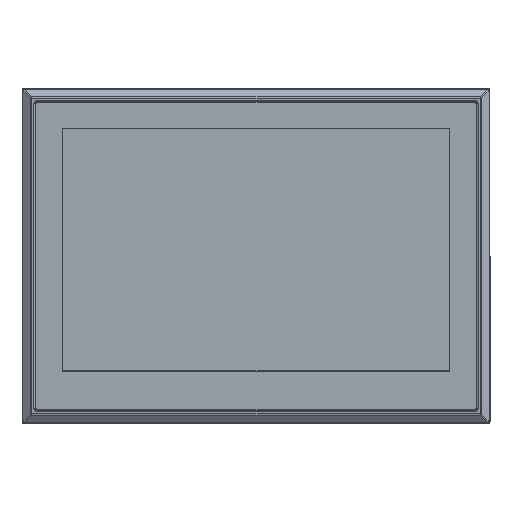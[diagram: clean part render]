
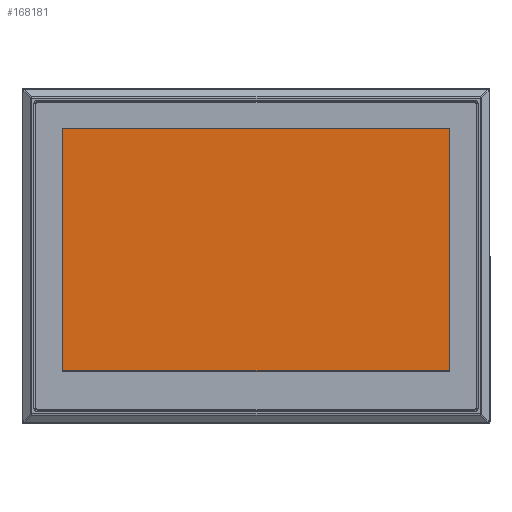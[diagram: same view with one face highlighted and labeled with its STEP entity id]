
A CAD part, top view. The second image highlights one B-rep face of the part: STEP entity #168181.
In plain terms, the highlighted planar face has unit normal (0, 0, 1).
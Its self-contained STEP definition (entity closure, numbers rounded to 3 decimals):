
#252 = VECTOR ( 'NONE', #104599, 1000. ) ;
#9140 = LINE ( 'NONE', #134623, #252 ) ;
#12244 = DIRECTION ( 'NONE',  ( 0., -1., 0. ) ) ;
#18298 = CARTESIAN_POINT ( 'NONE',  ( 122.48, -85.3, 1.1 ) ) ;
#18381 = VECTOR ( 'NONE', #12244, 1000. ) ;
#25375 = CARTESIAN_POINT ( 'NONE',  ( -108.48, 71.3, 1.1 ) ) ;
#29328 = CARTESIAN_POINT ( 'NONE',  ( -108.48, -64.3, 1.1 ) ) ;
#34214 = ORIENTED_EDGE ( 'NONE', *, *, #44054, .T. ) ;
#40735 = EDGE_CURVE ( 'NONE', #132975, #121600, #125954, .T. ) ;
#44054 = EDGE_CURVE ( 'NONE', #184923, #132975, #111466, .T. ) ;
#57312 = VERTEX_POINT ( 'NONE', #91098 ) ;
#62233 = DIRECTION ( 'NONE',  ( 0., 0., 1. ) ) ;
#65250 = EDGE_CURVE ( 'NONE', #121600, #57312, #129858, .T. ) ;
#77815 = VECTOR ( 'NONE', #183050, 1000. ) ;
#91098 = CARTESIAN_POINT ( 'NONE',  ( 108.48, 71.3, 1.1 ) ) ;
#92160 = FACE_OUTER_BOUND ( 'NONE', #159542, .T. ) ;
#92356 = AXIS2_PLACEMENT_3D ( 'NONE', #18298, #62233, #150295 ) ;
#98691 = CARTESIAN_POINT ( 'NONE',  ( -108.48, -64.3, 1.1 ) ) ;
#104599 = DIRECTION ( 'NONE',  ( -1., 0., 0. ) ) ;
#111466 = LINE ( 'NONE', #25375, #18381 ) ;
#111816 = ORIENTED_EDGE ( 'NONE', *, *, #40735, .T. ) ;
#117525 = PLANE ( 'NONE',  #92356 ) ;
#121600 = VERTEX_POINT ( 'NONE', #179482 ) ;
#125954 = LINE ( 'NONE', #98691, #77815 ) ;
#129858 = LINE ( 'NONE', #173851, #179802 ) ;
#132975 = VERTEX_POINT ( 'NONE', #29328 ) ;
#134623 = CARTESIAN_POINT ( 'NONE',  ( -108.48, 71.3, 1.1 ) ) ;
#150295 = DIRECTION ( 'NONE',  ( 1., 0., 0. ) ) ;
#154486 = EDGE_CURVE ( 'NONE', #57312, #184923, #9140, .T. ) ;
#155077 = ORIENTED_EDGE ( 'NONE', *, *, #154486, .T. ) ;
#159542 = EDGE_LOOP ( 'NONE', ( #155077, #34214, #111816, #180837 ) ) ;
#160760 = DIRECTION ( 'NONE',  ( 0., 1., 0. ) ) ;
#166167 = CARTESIAN_POINT ( 'NONE',  ( -108.48, 71.3, 1.1 ) ) ;
#168181 = ADVANCED_FACE ( 'NONE', ( #92160 ), #117525, .T. ) ;
#173851 = CARTESIAN_POINT ( 'NONE',  ( 108.48, 71.3, 1.1 ) ) ;
#179482 = CARTESIAN_POINT ( 'NONE',  ( 108.48, -64.3, 1.1 ) ) ;
#179802 = VECTOR ( 'NONE', #160760, 1000. ) ;
#180837 = ORIENTED_EDGE ( 'NONE', *, *, #65250, .T. ) ;
#183050 = DIRECTION ( 'NONE',  ( 1., 0., 0. ) ) ;
#184923 = VERTEX_POINT ( 'NONE', #166167 ) ;
